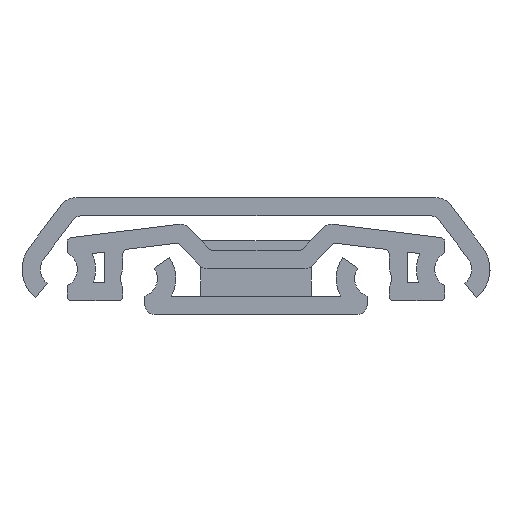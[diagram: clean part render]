
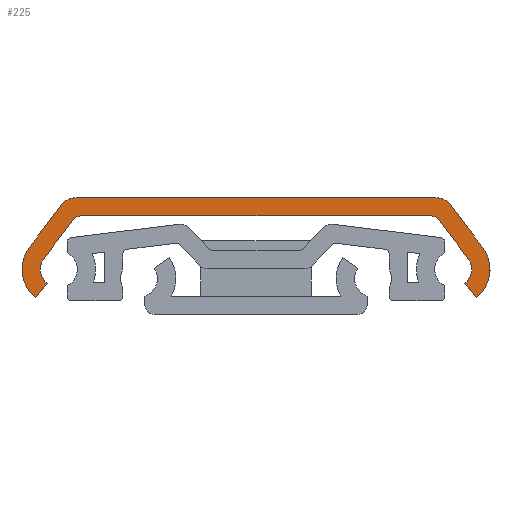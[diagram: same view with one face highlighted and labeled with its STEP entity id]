
A CAD part, left-side view. The second image highlights one B-rep face of the part: STEP entity #225.
In plain terms, the highlighted planar face has unit normal (-1, 0, 0) as drawn and (1, 0, 0) by its records, which use the part's own axes.
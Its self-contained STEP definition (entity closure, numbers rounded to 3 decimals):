
#225 = ADVANCED_FACE( '', ( #418 ), #419, .T. );
#418 = FACE_OUTER_BOUND( '', #765, .T. );
#419 = PLANE( '', #766 );
#765 = EDGE_LOOP( '', ( #1266, #1267, #1268, #1269, #1270, #1271, #1272, #1273, #1274, #1275, #1276, #1277, #1278, #1279, #1280, #1281 ) );
#766 = AXIS2_PLACEMENT_3D( '', #1282, #1283, #1284 );
#1266 = ORIENTED_EDGE( '', *, *, #2501, .T. );
#1267 = ORIENTED_EDGE( '', *, *, #2458, .T. );
#1268 = ORIENTED_EDGE( '', *, *, #2464, .T. );
#1269 = ORIENTED_EDGE( '', *, *, #2467, .T. );
#1270 = ORIENTED_EDGE( '', *, *, #2470, .T. );
#1271 = ORIENTED_EDGE( '', *, *, #2473, .T. );
#1272 = ORIENTED_EDGE( '', *, *, #2476, .F. );
#1273 = ORIENTED_EDGE( '', *, *, #2479, .T. );
#1274 = ORIENTED_EDGE( '', *, *, #2481, .F. );
#1275 = ORIENTED_EDGE( '', *, *, #2413, .T. );
#1276 = ORIENTED_EDGE( '', *, *, #2484, .F. );
#1277 = ORIENTED_EDGE( '', *, *, #2487, .T. );
#1278 = ORIENTED_EDGE( '', *, *, #2490, .F. );
#1279 = ORIENTED_EDGE( '', *, *, #2493, .T. );
#1280 = ORIENTED_EDGE( '', *, *, #2496, .T. );
#1281 = ORIENTED_EDGE( '', *, *, #2499, .T. );
#1282 = CARTESIAN_POINT( '', ( 356., 19.507, -2. ) );
#1283 = DIRECTION( '', ( 1., 0., 0. ) );
#1284 = DIRECTION( '', ( 0., 0., -1. ) );
#2413 = EDGE_CURVE( '', #2882, #2880, #2883, .T. );
#2458 = EDGE_CURVE( '', #2968, #2966, #2969, .T. );
#2464 = EDGE_CURVE( '', #2966, #2976, #2978, .T. );
#2467 = EDGE_CURVE( '', #2976, #2981, #2983, .T. );
#2470 = EDGE_CURVE( '', #2981, #2986, #2988, .T. );
#2473 = EDGE_CURVE( '', #2986, #2991, #2993, .T. );
#2476 = EDGE_CURVE( '', #2996, #2991, #2998, .T. );
#2479 = EDGE_CURVE( '', #2996, #3001, #3003, .T. );
#2481 = EDGE_CURVE( '', #2882, #3001, #3005, .T. );
#2484 = EDGE_CURVE( '', #3008, #2880, #3010, .T. );
#2487 = EDGE_CURVE( '', #3008, #3013, #3015, .T. );
#2490 = EDGE_CURVE( '', #3018, #3013, #3020, .T. );
#2493 = EDGE_CURVE( '', #3018, #3023, #3025, .T. );
#2496 = EDGE_CURVE( '', #3023, #3028, #3030, .T. );
#2499 = EDGE_CURVE( '', #3028, #3033, #3035, .T. );
#2501 = EDGE_CURVE( '', #3033, #2968, #3037, .T. );
#2880 = VERTEX_POINT( '', #3623 );
#2882 = VERTEX_POINT( '', #3626 );
#2883 = LINE( '', #3627, #3628 );
#2966 = VERTEX_POINT( '', #3735 );
#2968 = VERTEX_POINT( '', #3738 );
#2969 = LINE( '', #3739, #3740 );
#2976 = VERTEX_POINT( '', #3749 );
#2978 = CIRCLE( '', #3752, 2. );
#2981 = VERTEX_POINT( '', #3756 );
#2983 = LINE( '', #3759, #3760 );
#2986 = VERTEX_POINT( '', #3763 );
#2988 = CIRCLE( '', #3766, 4. );
#2991 = VERTEX_POINT( '', #3770 );
#2993 = LINE( '', #3773, #3774 );
#2996 = VERTEX_POINT( '', #3777 );
#2998 = CIRCLE( '', #3780, 2. );
#3001 = VERTEX_POINT( '', #3784 );
#3003 = LINE( '', #3787, #3788 );
#3005 = CIRCLE( '', #3790, 1. );
#3008 = VERTEX_POINT( '', #3793 );
#3010 = CIRCLE( '', #3796, 1. );
#3013 = VERTEX_POINT( '', #3800 );
#3015 = LINE( '', #3803, #3804 );
#3018 = VERTEX_POINT( '', #3807 );
#3020 = CIRCLE( '', #3810, 2. );
#3023 = VERTEX_POINT( '', #3814 );
#3025 = LINE( '', #3817, #3818 );
#3028 = VERTEX_POINT( '', #3821 );
#3030 = CIRCLE( '', #3824, 4. );
#3033 = VERTEX_POINT( '', #3828 );
#3035 = LINE( '', #3831, #3832 );
#3037 = CIRCLE( '', #3834, 2. );
#3623 = CARTESIAN_POINT( '', ( 356., 19.011, -2. ) );
#3626 = CARTESIAN_POINT( '', ( 356., -19.011, -2. ) );
#3627 = CARTESIAN_POINT( '', ( 356., -19.011, -2. ) );
#3628 = VECTOR( '', #4633, 1000. );
#3735 = CARTESIAN_POINT( '', ( 356., -19.507, 0. ) );
#3738 = CARTESIAN_POINT( '', ( 356., 19.507, 0. ) );
#3739 = CARTESIAN_POINT( '', ( 356., 19.507, 0. ) );
#3740 = VECTOR( '', #4716, 1000. );
#3749 = CARTESIAN_POINT( '', ( 356., -21.1, -0.791 ) );
#3752 = AXIS2_PLACEMENT_3D( '', #4726, #4727, #4728 );
#3756 = CARTESIAN_POINT( '', ( 356., -24.586, -5.381 ) );
#3759 = CARTESIAN_POINT( '', ( 356., -21.1, -0.791 ) );
#3760 = VECTOR( '', #4731, 1000. );
#3763 = CARTESIAN_POINT( '', ( 356., -23.93, -10.899 ) );
#3766 = AXIS2_PLACEMENT_3D( '', #4736, #4737, #4738 );
#3770 = CARTESIAN_POINT( '', ( 356., -22.665, -9.349 ) );
#3773 = CARTESIAN_POINT( '', ( 356., -23.93, -10.899 ) );
#3774 = VECTOR( '', #4741, 1000. );
#3777 = CARTESIAN_POINT( '', ( 356., -22.993, -6.591 ) );
#3780 = AXIS2_PLACEMENT_3D( '', #4746, #4747, #4748 );
#3784 = CARTESIAN_POINT( '', ( 356., -19.808, -2.395 ) );
#3787 = CARTESIAN_POINT( '', ( 356., -22.993, -6.591 ) );
#3788 = VECTOR( '', #4751, 1000. );
#3790 = AXIS2_PLACEMENT_3D( '', #4755, #4756, #4757 );
#3793 = CARTESIAN_POINT( '', ( 356., 19.808, -2.395 ) );
#3796 = AXIS2_PLACEMENT_3D( '', #4762, #4763, #4764 );
#3800 = CARTESIAN_POINT( '', ( 356., 22.993, -6.591 ) );
#3803 = CARTESIAN_POINT( '', ( 356., 19.808, -2.395 ) );
#3804 = VECTOR( '', #4767, 1000. );
#3807 = CARTESIAN_POINT( '', ( 356., 22.665, -9.349 ) );
#3810 = AXIS2_PLACEMENT_3D( '', #4772, #4773, #4774 );
#3814 = CARTESIAN_POINT( '', ( 356., 23.93, -10.899 ) );
#3817 = CARTESIAN_POINT( '', ( 356., 22.665, -9.349 ) );
#3818 = VECTOR( '', #4777, 1000. );
#3821 = CARTESIAN_POINT( '', ( 356., 24.586, -5.381 ) );
#3824 = AXIS2_PLACEMENT_3D( '', #4782, #4783, #4784 );
#3828 = CARTESIAN_POINT( '', ( 356., 21.1, -0.791 ) );
#3831 = CARTESIAN_POINT( '', ( 356., 24.586, -5.381 ) );
#3832 = VECTOR( '', #4787, 1000. );
#3834 = AXIS2_PLACEMENT_3D( '', #4791, #4792, #4793 );
#4633 = DIRECTION( '', ( 0., 1., 0. ) );
#4716 = DIRECTION( '', ( 0., -1., 0. ) );
#4726 = CARTESIAN_POINT( '', ( 356., -19.507, -2. ) );
#4727 = DIRECTION( '', ( 1., 0., 0. ) );
#4728 = DIRECTION( '', ( 0., 0., -1. ) );
#4731 = DIRECTION( '', ( 0., -0.605, -0.796 ) );
#4736 = CARTESIAN_POINT( '', ( 356., -21.4, -7.8 ) );
#4737 = DIRECTION( '', ( 1., 0., 0. ) );
#4738 = DIRECTION( '', ( 0., 0., -1. ) );
#4741 = DIRECTION( '', ( 0., 0.632, 0.775 ) );
#4746 = CARTESIAN_POINT( '', ( 356., -21.4, -7.8 ) );
#4747 = DIRECTION( '', ( 1., 0., 0. ) );
#4748 = DIRECTION( '', ( 0., 0., -1. ) );
#4751 = DIRECTION( '', ( 0., 0.605, 0.796 ) );
#4755 = CARTESIAN_POINT( '', ( 356., -19.011, -3. ) );
#4756 = DIRECTION( '', ( 1., 0., 0. ) );
#4757 = DIRECTION( '', ( 0., 0., -1. ) );
#4762 = CARTESIAN_POINT( '', ( 356., 19.011, -3. ) );
#4763 = DIRECTION( '', ( 1., 0., 0. ) );
#4764 = DIRECTION( '', ( 0., 0., -1. ) );
#4767 = DIRECTION( '', ( 0., 0.605, -0.796 ) );
#4772 = CARTESIAN_POINT( '', ( 356., 21.4, -7.8 ) );
#4773 = DIRECTION( '', ( 1., 0., 0. ) );
#4774 = DIRECTION( '', ( 0., 0., -1. ) );
#4777 = DIRECTION( '', ( 0., 0.632, -0.775 ) );
#4782 = CARTESIAN_POINT( '', ( 356., 21.4, -7.8 ) );
#4783 = DIRECTION( '', ( 1., 0., 0. ) );
#4784 = DIRECTION( '', ( 0., 0., -1. ) );
#4787 = DIRECTION( '', ( 0., -0.605, 0.796 ) );
#4791 = CARTESIAN_POINT( '', ( 356., 19.507, -2. ) );
#4792 = DIRECTION( '', ( 1., 0., 0. ) );
#4793 = DIRECTION( '', ( 0., 0., -1. ) );
